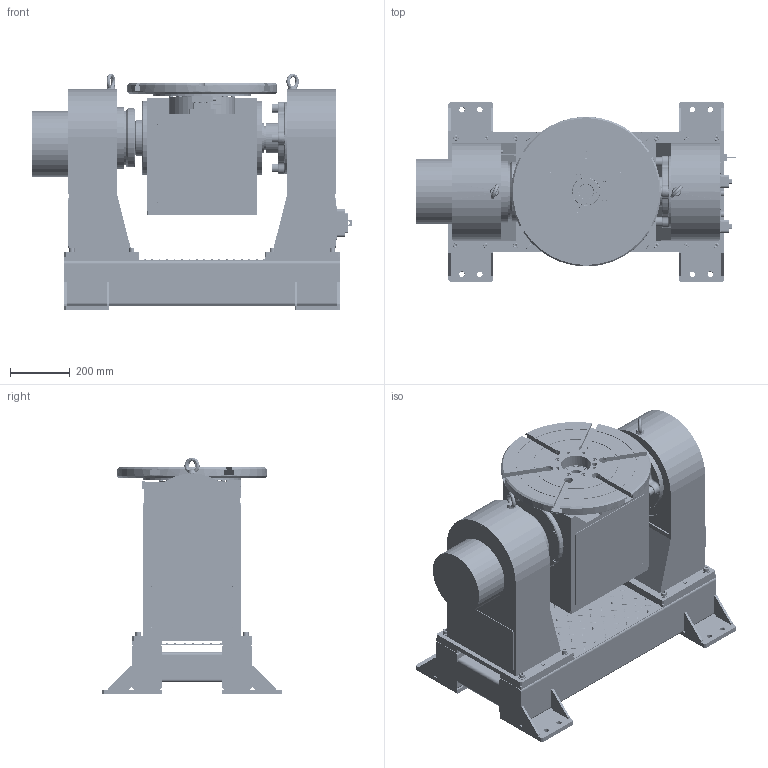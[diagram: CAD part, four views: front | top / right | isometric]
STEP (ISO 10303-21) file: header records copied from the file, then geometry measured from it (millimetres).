
FILE_DESCRIPTION (( 'STEP AP214' ), '1' );
FILE_NAME ('QJ2P500-1(双轴U型变位机).STEP', '2018-11-27T01:29:11', ( 'Windows 用户' ), ( '创新计算机公司' ), 'SwSTEP 2.0', 'SolidWorks 2016', '' );
FILE_SCHEMA (( 'AUTOMOTIVE_DESIGN' ));
Length unit declared in the file: millimetre
Products named in the file (70): GB／T95-2002平垫圈C级8×1．6; 导柱改铸造焊接双轴; QJ2P500-1(邧粣U倰曹弇儂); 腴厒奪; GB／T70．1-2000内六角圆柱头螺钉M10×65; 导电板改铸造焊接双轴; 第一级零位表示-双轴; GB／T70．1-2000内六角圆柱头螺钉M8×30; 绝缘板改铸造焊接双轴; 絳萇啣-邧粣; GB／T70．1-2000内六角圆柱头螺钉M6×20; 工作台面-圆盘双轴; TC倰 55X72X8-怢俜WKF; GB／T70．1-2000内六角圆柱头螺钉M12×25; RV-50C-BoltType; 豪瑩粣-50C-12; GB／T70．3-2000内六角沉头螺钉M4×12; 珨撰眊极; AS(ARP)568-169; MSWT1; 植雄眊郪璃邧粣; 菁窒裔啣邧粣; TBF01-M12邧粣; GB／T70．1-2000内六角圆柱头螺钉M20×70; 綴裔啣邧粣; JISB2401-G190; hexagon socket head cap screws gb_GB_FASTENER_SCREWS_HSHCS M12X20-N; 侜督諉盄啣邧粣; 絳萇蚾离-FANUC邧粣; 第二级零位标尺双轴; plain washers--product grade c gb_GB_FASTENER_WASHER_SMWC 12; 植狟裔啣邧粣; GB／T70．1-2000内六角圆柱头螺钉M8×20; 翋狟裔啣邧粣; YCY61-D16T-P12-L15-B15邧粣; 諷秶裔啣邧粣; hexagon socket head cap screws gb_GB_FASTENER_SCREWS_HSHCS M6X10-N; 主动箱上后端双轴; YCY51-D16-P12-L15-B15邧粣; 諷秶諉盄啣邧粣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
Assembly tree (209 placements, depth 4):
  QJ2P500-1(邧粣U倰曹弇儂)
    双轴变位机底座_默认<按加工>
    豪詩啣邧粣
    翋雄眊郪璃邧粣
      主动箱体双轴_默认<按加工>
      rv-110-111邧粣
      RV蟀諉啣邧粣
      徹僅蛌諉啣邧粣
      电机连接法兰盘双轴
      主动箱上后端双轴
      翋狟裔啣邧粣
      第二级零位标尺双轴
      JISB2401-G190
      TBF01-M12邧粣
      MSWT1  x2
      GB／T70．3-2000内六角沉头螺钉M4×12  x10
      GB／T70．1-2000内六角圆柱头螺钉M12×25  x12
      GB／T70．1-2000内六角圆柱头螺钉M6×20
      GB／T70．1-2000内六角圆柱头螺钉M8×30  x6
      GB／T70．1-2000内六角圆柱头螺钉M10×65  x6
      GB／T95-2002平垫圈C级8×1．6
      GB／T70．1-2000内六角圆柱头螺钉M10×55  x12
    植雄眊郪璃邧粣
      从动箱体双轴_默认<按加工>
      UCFC216邧粣  x2
      从动箱钣金-后端双轴
      粣邧粣
      TBF01-M12邧粣
      蛹憤諉盄啣邧粣
      諷秶諉盄啣邧粣  x2
      諷秶裔啣邧粣  x2
      植狟裔啣邧粣
      侜督諉盄啣邧粣  x2
      GB／T70．3-2000内六角沉头螺钉M4×12  x9
      GB／T70．1-2000内六角圆柱头螺钉M20×70  x8
      GB／T70．1-2000内六角圆柱头螺钉M8×30  x6
    一级变位组件双轴
      珨撰眊极
      RV-50C-BoltType
      工作台面-圆盘双轴
      絳萇蚾离-FANUC邧粣
        绝缘板改铸造焊接双轴
        导电板改铸造焊接双轴
        导柱改铸造焊接双轴
        WH13-30蜊翉婖爾諉邧粣  x4
        防转销改铸造焊接双轴  x2
        L板改铸造焊接双轴
        萇憤釱爾諉邧粣
        spring lock washers--normal type gb_GB_FASTENER_WASHER_SW 8  x3
        spring lock washers--normal type gb_GB_FASTENER_WASHER_SW 4  x2
        hexagon socket head cap screws gb_GB_FASTENER_SCREWS_HSHCS M4X6-N  x2
        spring lock washers--normal type gb_GB_FASTENER_WASHER_SW 6  x2
        hexagon socket head cap screws gb_GB_FASTENER_SCREWS_HSHCS M6X10-N  x2
        GB／T70．1-2000内六角圆柱头螺钉M8×20  x3
      綴裔啣邧粣  x2
      菁窒裔啣邧粣
      AS(ARP)568-169
      豪瑩粣-50C-12
      TC倰 55X72X8-怢俜WKF
      絳萇啣-邧粣
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Bounding box: 1066.5 x 600 x 791.5 mm (x, y, z)
Volume: 59444415.9 mm3; surface area: 11273798.2 mm2
Topology: 264 solids, 264 shells, 7101 faces, 16721 edges, 10038 vertices
Faces by surface type: plane 2531, cylinder 2396, cone 1244, torus 538, bspline 392
Entity records: 130337 total; most frequent: CARTESIAN_POINT 27813, DIRECTION 20489, ORIENTED_EDGE 18416, EDGE_CURVE 9208, AXIS2_PLACEMENT_3D 8087, VERTEX_POINT 5923, EDGE_LOOP 5047, LINE 4315
